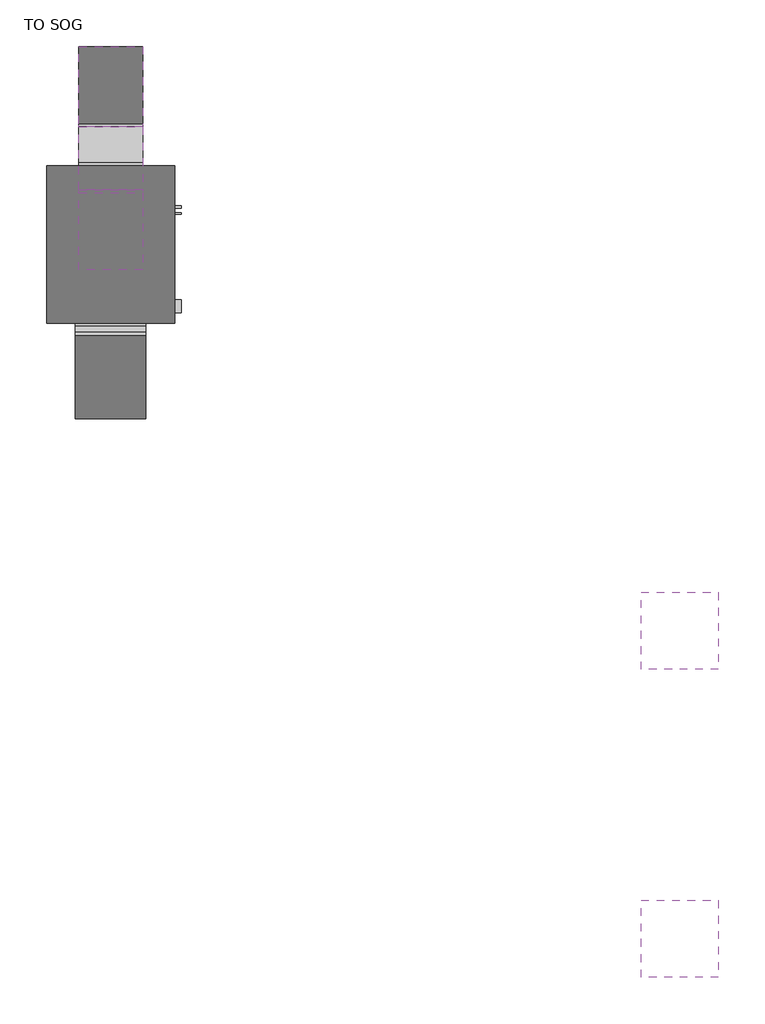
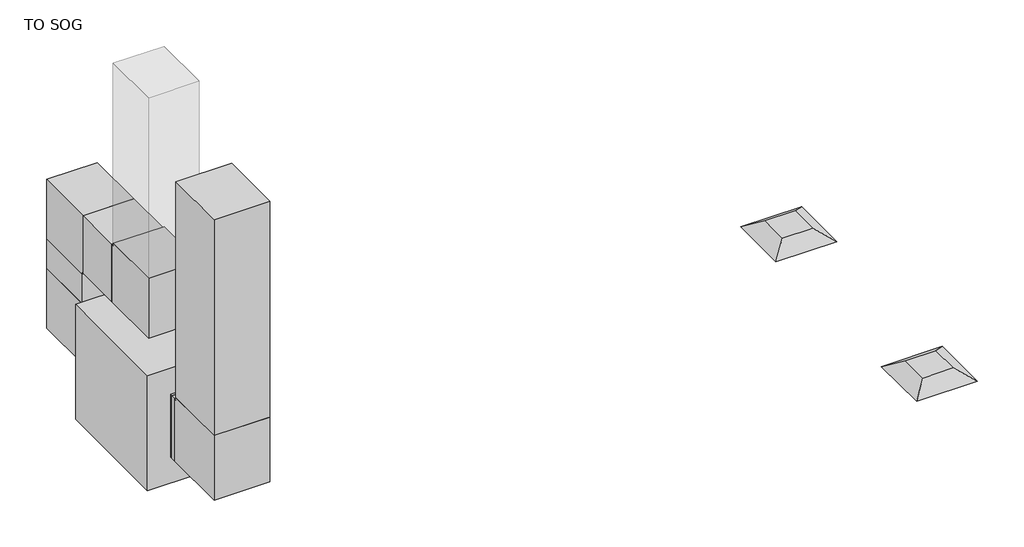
# One storey: 6 duct segments, 4 duct fittings, 2 air terminals, 1 proxy.
"""IFC4 building model written with IfcOpenShell, lengths in millimetres."""

from ifc_helpers import new_model, si_unit, frame, origin, place, context, project, spatial, polyline, outline, extrude, transform, mapped, element, save
from components import exhaust_diffuser_hosted_workplane_based_exhaust_diffuser_7695a80a, bcn6785_ahu_336a5cc9, rectangular_elbow_mitered_standard_c5bcfd69, rectangular_elbow_mitered_standard_c7d444e8

model = new_model("IFC4")

# Units and contexts
model_context = context("Model", 3, world=origin())
ifc_project = project(units=[si_unit("LENGTHUNIT", "METRE", prefix="MILLI")], contexts=[model_context])

# Site, building, storey
site = spatial("IfcSite", under=ifc_project)
building = spatial("IfcBuilding", under=site)
storey = spatial("IfcBuildingStorey", under=building, Name="TO SOG", Elevation=0.0)

# Air terminals
placement = place(None, origin())
exhaust_diffuser_hosted_workplane_based_exhaust_diffuser_shape = exhaust_diffuser_hosted_workplane_based_exhaust_diffuser_7695a80a(model_context)
element("IfcAirTerminal", 1, ObjectType="Exhaust Diffuser - Hosted : Workplane-based Exhaust Diffuser", at=placement, inside=storey, context=model_context, shape_type="MappedRepresentation", body=[
    mapped(exhaust_diffuser_hosted_workplane_based_exhaust_diffuser_shape, transform((-12923.6292617, -3364.9078325, 2438.4), x_axis=(1.0, 0.0, 0.0), y_axis=(0.0, -1.0, 0.0), z_axis=(0.0, 0.0, -1.0))),
])
element("IfcAirTerminal", 2, ObjectType="Exhaust Diffuser - Hosted : Workplane-based Exhaust Diffuser", at=placement, inside=storey, context=model_context, shape_type="MappedRepresentation", body=[
    mapped(exhaust_diffuser_hosted_workplane_based_exhaust_diffuser_shape, transform((-12923.6292617, -5803.3078325, 2438.4), x_axis=(1.0, 0.0, 0.0), y_axis=(0.0, -1.0, 0.0), z_axis=(0.0, 0.0, -1.0))),
])

# Proxy
bcn6785_ahu_shape = bcn6785_ahu_336a5cc9(model_context)
element("IfcBuildingElementProxy", 3, Name="BCN6785_AHU : D3060300_IndoorAHUHorizontal_ChilledWaterCoil_UnitSize 54", ObjectType="BCN6785_AHU : D3060300_IndoorAHUHorizontal_ChilledWaterCoil_UnitSize 54", at=placement, inside=storey, context=model_context, shape_type="MappedRepresentation", body=[
    mapped(bcn6785_ahu_shape, transform((-16920.9542617, -926.5078325, 0.0), x_axis=(0.0, 1.0, 0.0), y_axis=(-1.0, 0.0, 0.0), z_axis=(0.0, 0.0, 1.0))),
])

# Duct fittings
rectangular_elbow_mitered_standard_shape = rectangular_elbow_mitered_standard_c5bcfd69(model_context)
element("IfcDuctFitting", 4, ObjectType="Rectangular Elbow - Mitered : Standard", at=placement, inside=storey, context=model_context, shape_type="MappedRepresentation", body=[
    mapped(rectangular_elbow_mitered_standard_shape, transform((-17428.9542617, -1355.9265825, 609.6), x_axis=(0.0, 0.0, -1.0), y_axis=(0.0, 1.0, 0.0), z_axis=(1.0, 0.0, 0.0))),
])
rectangular_elbow_mitered_standard_2_shape = rectangular_elbow_mitered_standard_c7d444e8(model_context)
element("IfcDuctFitting", 5, ObjectType="Rectangular Elbow - Mitered : Standard", at=placement, inside=storey, context=model_context, shape_type="MappedRepresentation", body=[
    mapped(rectangular_elbow_mitered_standard_2_shape, transform((-17428.9542617, 957.8546675, 609.6), x_axis=(0.0, 1.0, 0.0), y_axis=(0.0, 0.0, 1.0), z_axis=(1.0, 0.0, 0.0))),
])
element("IfcDuctFitting", 6, ObjectType="Rectangular Elbow - Mitered : Standard", at=placement, inside=storey, context=model_context, shape_type="MappedRepresentation", body=[
    mapped(rectangular_elbow_mitered_standard_2_shape, transform((-17428.9542617, 957.8546675, 1574.8), x_axis=(0.0, 0.0, 1.0), y_axis=(0.0, -1.0, 0.0), z_axis=(1.0, 0.0, 0.0))),
])
element("IfcDuctFitting", 7, ObjectType="Rectangular Elbow - Mitered : Standard", at=placement, inside=storey, context=model_context, shape_type="MappedRepresentation", body=[
    mapped(rectangular_elbow_mitered_standard_2_shape, transform((-17428.9542617, -201.3156743, 1574.8), x_axis=(0.0, -1.0, 0.0), y_axis=(0.0, 0.0, 1.0), z_axis=(-1.0, 0.0, 0.0))),
])

# Duct segments
element("IfcDuctSegment", 8, ObjectType="Mitered Elbows / Taps", at=placement, inside=storey, context=model_context, shape_type="SweptSolid", body=[
    extrude(outline(polyline([(-17149.5542617, -1686.1265825), (-17708.3542617, -1686.1265825), (-17708.3542617, -1025.7265825), (-17149.5542617, -1025.7265825), (-17149.5542617, -1686.1265825)])), frame((0.0, 0.0, 965.2), z_axis=(0.0, 0.0, 1.0), x_axis=(1.0, 0.0, 0.0)), (0.0, 0.0, 1.0), 2286.0),
])
element("IfcDuctSegment", 9, ObjectType="Mitered Elbows / Taps", at=placement, inside=storey, context=model_context, shape_type="SweptSolid", body=[
    extrude(outline(polyline([(-17708.3542617, -951.9078325), (-17149.5542617, -951.9078325), (-17149.5542617, -1000.3265825), (-17708.3542617, -1000.3265825), (-17708.3542617, -951.9078325)])), frame((0.0, 0.0, 279.4), z_axis=(0.0, 0.0, 1.0), x_axis=(1.0, 0.0, 0.0)), (0.0, 0.0, 1.0), 660.4),
])
element("IfcDuctSegment", 10, ObjectType="Mitered Elbows / Taps", at=placement, inside=storey, context=model_context, shape_type="SweptSolid", body=[
    extrude(outline(polyline([(-17174.9542617, 343.4921675), (-17682.9542617, 343.4921675), (-17682.9542617, 627.6546675), (-17174.9542617, 627.6546675), (-17174.9542617, 343.4921675)])), frame((0.0, 0.0, 304.8), z_axis=(0.0, 0.0, 1.0), x_axis=(1.0, 0.0, 0.0)), (0.0, 0.0, 1.0), 609.6),
])
element("IfcDuctSegment", 11, ObjectType="Mitered Elbows / Taps", at=placement, inside=storey, context=model_context, shape_type="SweptSolid", body=[
    extrude(outline(polyline([(-17174.9542617, 653.0546675), (-17682.9542617, 653.0546675), (-17682.9542617, 1262.6546675), (-17174.9542617, 1262.6546675), (-17174.9542617, 653.0546675)])), frame((0.0, 0.0, 939.8), z_axis=(0.0, 0.0, 1.0), x_axis=(1.0, 0.0, 0.0)), (0.0, 0.0, 1.0), 304.8),
])
element("IfcDuctSegment", 12, ObjectType="Mitered Elbows / Taps", at=placement, inside=storey, context=model_context, shape_type="SweptSolid", body=[
    extrude(outline(polyline([(-17682.9542617, 627.6546675), (-17174.9542617, 627.6546675), (-17174.9542617, 128.8843257), (-17682.9542617, 128.8843257), (-17682.9542617, 627.6546675)])), frame((0.0, 0.0, 1270.0), z_axis=(0.0, 0.0, 1.0), x_axis=(1.0, 0.0, 0.0)), (0.0, 0.0, 1.0), 609.6),
])
element("IfcDuctSegment", 13, ObjectType="Mitered Elbows / Taps", at=placement, inside=storey, context=model_context, shape_type="SweptSolid", body=[
    extrude(outline(polyline([(-17174.9542617, -506.1156743), (-17682.9542617, -506.1156743), (-17682.9542617, 103.4843257), (-17174.9542617, 103.4843257), (-17174.9542617, -506.1156743)])), frame((0.0, 0.0, 1905.0), z_axis=(0.0, 0.0, 1.0), x_axis=(1.0, 0.0, 0.0)), (0.0, 0.0, 1.0), 1905.0),
])

save(model, "model.ifc")
